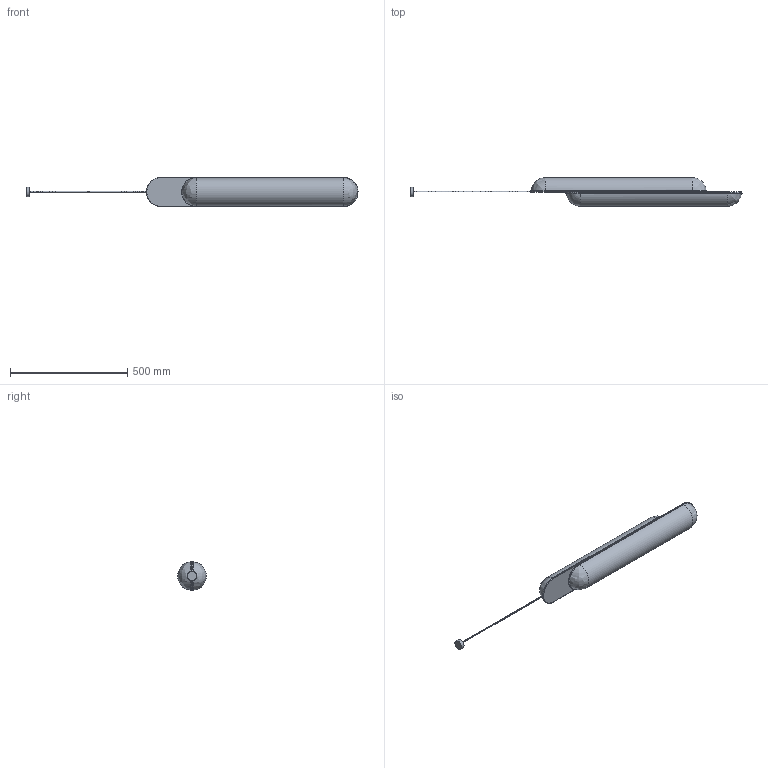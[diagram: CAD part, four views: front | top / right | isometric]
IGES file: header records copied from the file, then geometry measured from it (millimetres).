
Global section: file name: GEMINI VERTICAL; native system: Autodesk Inventor 2023; preprocessor: unknown; author: Alex Brigg; date: 20240518.001120; units: millimetre
Bounding box: 1415.71 x 122.77 x 124 mm (x, y, z)
Volume: 8339712.1 mm3; surface area: 853766.1 mm2
Topology: 7 solids, 7 shells, 47 faces, 99 edges, 60 vertices
Faces by surface type: bspline 47
